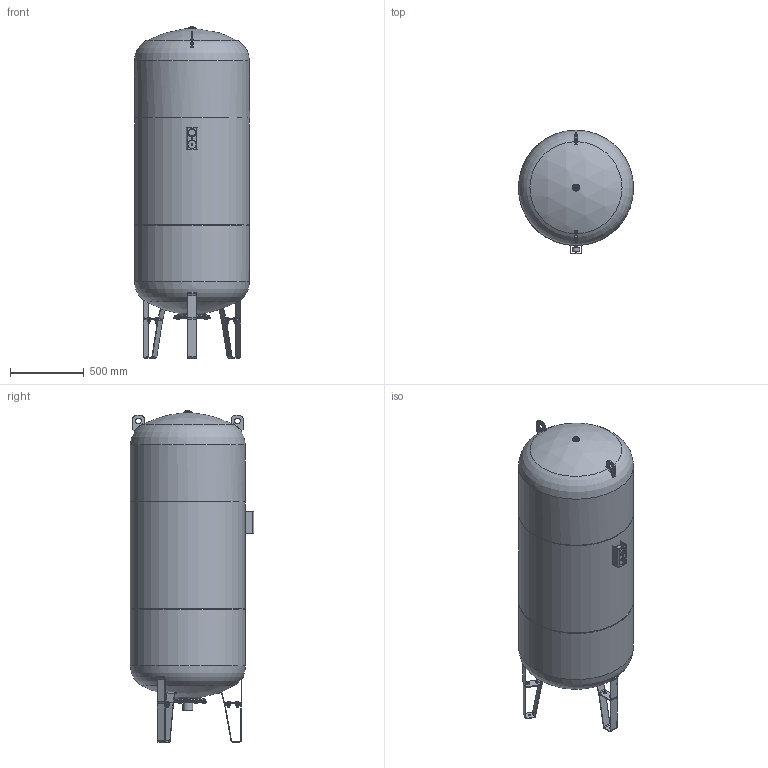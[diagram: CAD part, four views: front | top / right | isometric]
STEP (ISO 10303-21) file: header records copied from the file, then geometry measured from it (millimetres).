
FILE_DESCRIPTION(('STEP AP214'), '1');
FILE_NAME('WAV-1000', '', ('UNSPECIFIED'), ('UNSPECIFIED'), 'ASCON STEP Converter 1.3', 'ASCON Math Kernel', '');
FILE_SCHEMA(('AUTOMOTIVE_DESIGN { 1 0 10303 214 3 1 1}'));
Length unit declared in the file: millimetre
Bounding box: 781.25 x 839.48 x 2250.82 mm (x, y, z)
Surface area: 5681603.8 mm2 (no closed solid volume)
Topology: 0 solids, 8 shells, 786 faces, 2160 edges, 1417 vertices
Faces by surface type: plane 353, cylinder 199, cone 146, torus 42, sphere 24, bspline 22
Full cylindrical faces by diameter (mm): 3 x1, 4 x1, 4.3 x1, 5.5 x1, 6 x1, 6.5 x1, 8 x3, 8.5 x1, 12 x19, 13 x6, 13.585 x1, 14 x3, 18.6 x1, 24 x7, 26.4 x1, 40 x2, 47 x1, 48 x1, 50 x1, 55 x2, 56.235 x1, 56.656 x1, 66.5 x1, 179 x1, 200 x1, 240 x1, 250 x1, 780 x2
Entity records: 61672 total; most frequent: CARTESIAN_POINT 36053, ORIENTED_EDGE 4007, DIRECTION 3895, EDGE_CURVE 2022, AXIS2_PLACEMENT_3D 1590, VERTEX_POINT 1411, EDGE_LOOP 1018, FACE_BOUND 984
